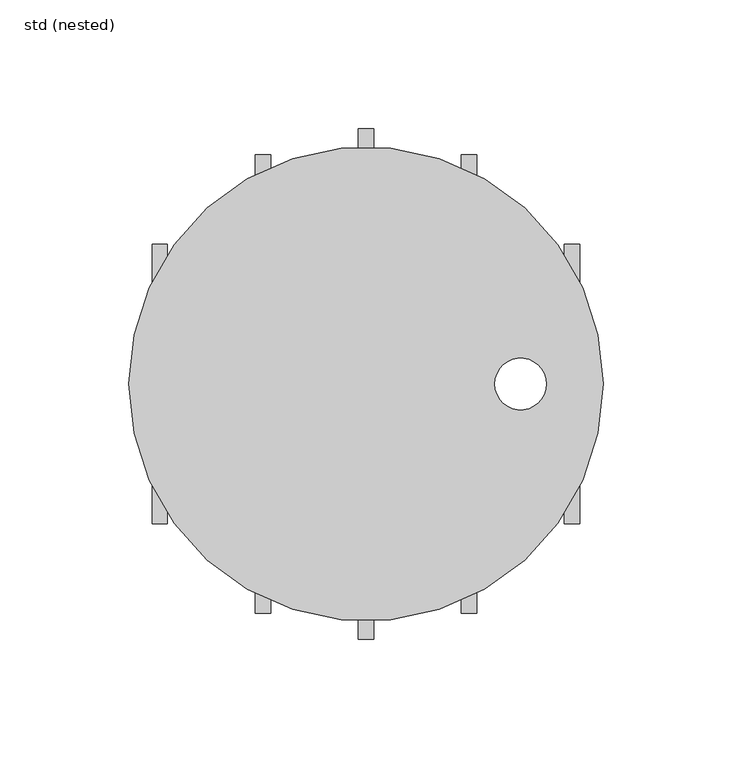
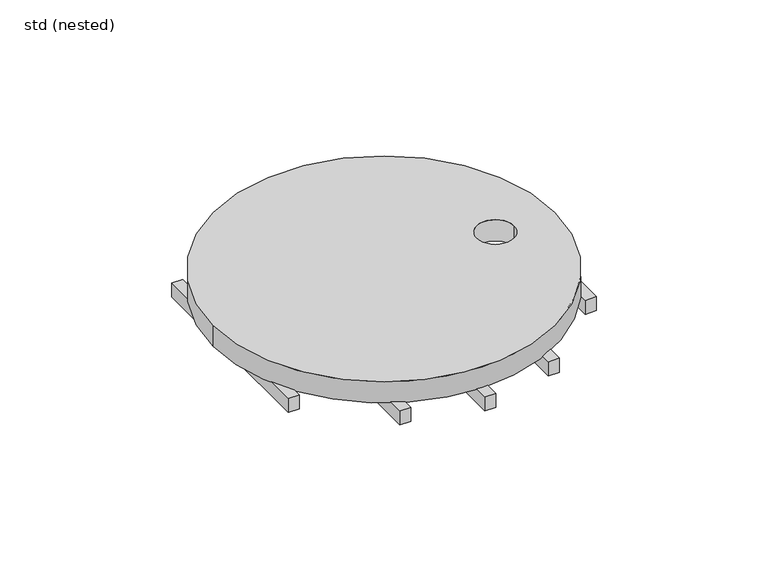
"""IFC4 building model written with IfcOpenShell, lengths in millimetres: sanitary terminal geometry, ZZZ_do not use_PF_ST_UN_round grating for hygienic gully_ACO : std (nested)."""

from ifc_helpers import new_model, si_unit, point, frame, frame_2d, origin, origin_2d, place, context, project, spatial, polyline, circle_curve, trimmed, segment, composite_curve, outline, extrude, source, transform, mapped, element, save


def std_nested_233757a9(model_context):
    return source(origin(), model_context, "Body", "SweptSolid", [
        extrude(outline(polyline([(3.0, 99.0), (3.0, -99.0), (-3.0, -99.0), (-3.0, 99.0), (3.0, 99.0)])), frame((0.0, 0.0, -20.0), z_axis=(0.0, 0.0, 1.0), x_axis=(1.0, 0.0, 0.0)), (0.0, 0.0, 1.0), 8.0),
        extrude(outline(polyline([(-37.0, 89.0), (-37.0, -89.0), (-43.0, -89.0), (-43.0, 89.0), (-37.0, 89.0)])), frame((0.0, 0.0, -20.0), z_axis=(0.0, 0.0, 1.0), x_axis=(1.0, 0.0, 0.0)), (0.0, 0.0, 1.0), 8.0),
        extrude(outline(polyline([(-77.0, 54.25), (-77.0, -54.25), (-83.0, -54.25), (-83.0, 54.25), (-77.0, 54.25)])), frame((0.0, 0.0, -20.0), z_axis=(0.0, 0.0, 1.0), x_axis=(1.0, 0.0, 0.0)), (0.0, 0.0, 1.0), 8.0),
        extrude(outline(polyline([(43.019669, 89.0), (43.019669, -89.0), (37.019669, -89.0), (37.019669, 89.0), (43.019669, 89.0)])), frame((0.0, 0.0, -20.0), z_axis=(0.0, 0.0, 1.0), x_axis=(1.0, 0.0, 0.0)), (0.0, 0.0, 1.0), 8.0),
        extrude(outline(polyline([(83.019669, 54.25), (83.019669, -54.25), (77.019669, -54.25), (77.019669, 54.25), (83.019669, 54.25)])), frame((0.0, 0.0, -20.0), z_axis=(0.0, 0.0, 1.0), x_axis=(1.0, 0.0, 0.0)), (0.0, 0.0, 1.0), 8.0),
        extrude(outline(composite_curve([segment(trimmed(circle_curve(origin_2d(), 91.9903039), [point((-91.9903039, 0.0))], [point((91.9903039, 0.0))], False, "CARTESIAN"), True, "CONTINUOUS"), segment(trimmed(circle_curve(origin_2d(), 91.9903039), [point((91.9903039, 0.0))], [point((-91.9903039, 0.0))], False, "CARTESIAN"), True, "CONTINUOUS")], self_intersect=False), holes=[composite_curve([segment(trimmed(circle_curve(frame_2d((60.0, 0.0)), 10.0), [point((50.0, 0.0))], [point((70.0, 0.0))], True, "CARTESIAN"), True, "CONTINUOUS"), segment(trimmed(circle_curve(frame_2d((60.0, 0.0)), 10.0), [point((70.0, 0.0))], [point((50.0, 0.0))], True, "CARTESIAN"), True, "CONTINUOUS")], self_intersect=False)]), frame((0.0, 0.0, -12.0), z_axis=(0.0, 0.0, 1.0), x_axis=(1.0, 0.0, 0.0)), (0.0, 0.0, 1.0), 12.0),
    ])


if __name__ == "__main__":
    model = new_model("IFC4")
    model_context = context("Model", 3, world=origin())
    ifc_project = project(units=[si_unit("LENGTHUNIT", "METRE", prefix="MILLI")], contexts=[model_context])
    site = spatial("IfcSite", under=ifc_project)
    building = spatial("IfcBuilding", under=site)
    placement = place(None, origin())
    std_nested_shape = std_nested_233757a9(model_context)
    element("IfcSanitaryTerminal", 1, ObjectType="ZZZ_do not use_PF_ST_UN_round grating for hygienic gully_ACO : std (nested)", at=placement, inside=building, context=model_context, shape_type="MappedRepresentation", body=[
        mapped(std_nested_shape, transform((0.0, 0.0, 0.0), x_axis=(1.0, 0.0, 0.0), y_axis=(0.0, 1.0, 0.0), z_axis=(0.0, 0.0, 1.0))),
    ])
    save(model, "model.ifc")
